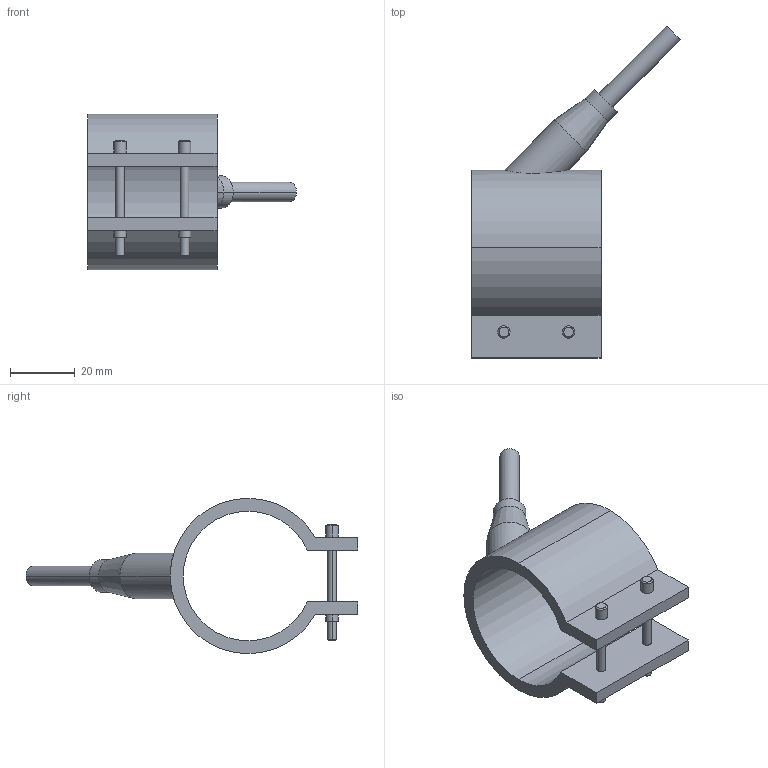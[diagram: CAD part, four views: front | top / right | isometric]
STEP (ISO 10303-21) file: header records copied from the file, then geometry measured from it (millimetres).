
FILE_DESCRIPTION(('CATIA V5 STEP Exchange'),'2;1');
FILE_NAME('C:\Users\Utente\Desktop\IO LAVORO\3D X SITO CF\X SITO\PLASTICA\RF1\29040040.stp','2021-03-27T08:56:00+00:00',('none'),('none'),'CATIA Version 5 Release 20 GA (IN-10)','CATIA V5 STEP AP203','none');
FILE_SCHEMA(('CONFIG_CONTROL_DESIGN'));
Length unit declared in the file: millimetre
Products named in the file (1): 29040040
Bounding box: 64.55 x 102.55 x 48 mm (x, y, z)
Volume: 28599.3 mm3; surface area: 15344.8 mm2
Topology: 1 solids, 1 shells, 54 faces, 124 edges, 80 vertices
Faces by surface type: cylinder 28, plane 16, cone 10
Entity records: 1724 total; most frequent: CARTESIAN_POINT 487, ORIENTED_EDGE 248, DIRECTION 213, EDGE_CURVE 124, AXIS2_PLACEMENT_3D 106, VERTEX_POINT 80, EDGE_LOOP 66, VECTOR 56
